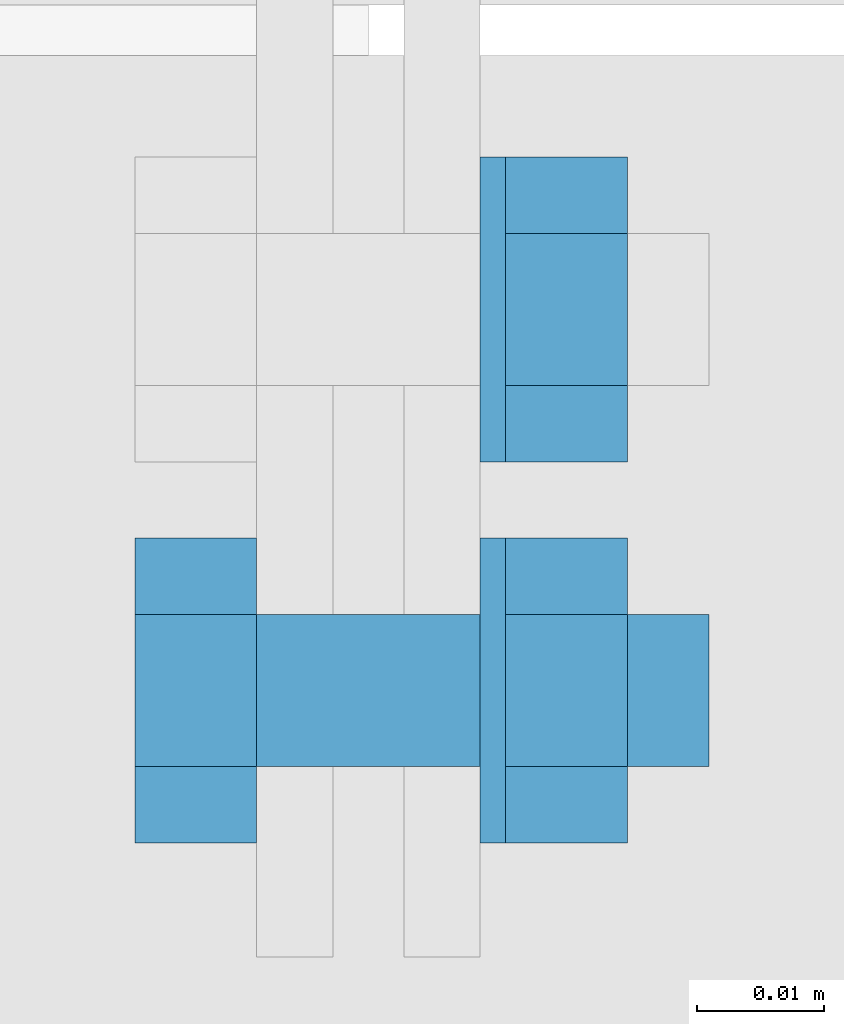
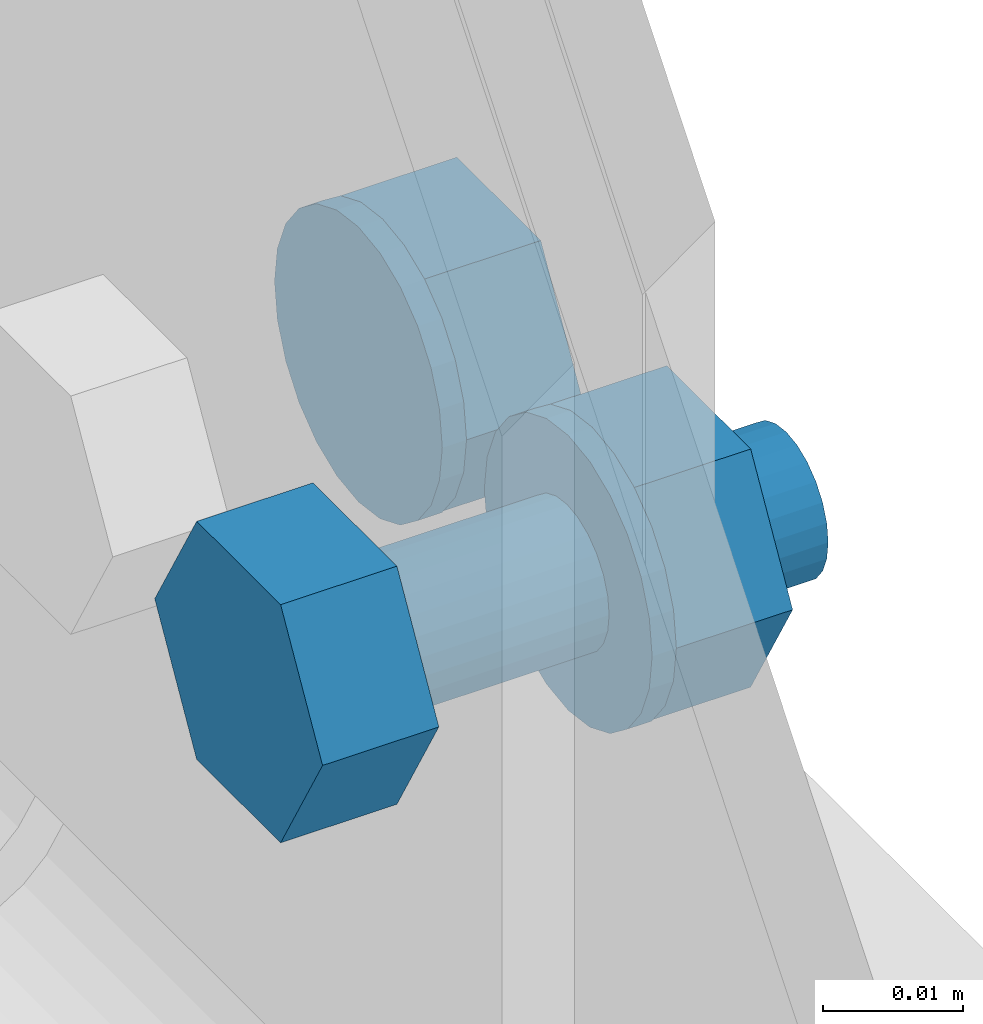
# One storey, part 80 of 84: 6 mechanical fasteners.
"""IFC4 building model written with IfcOpenShell, lengths in metres."""

from ifc_helpers import new_model, si_unit, frame, origin_with_axes, place, context, project, spatial, polyline, outline, extrude, type_object, element, save


model = new_model("IFC4")

# Units and contexts
model_context = context("Model", 3, precision=1e-05, world=origin_with_axes())
ifc_project = project(units=[si_unit("LENGTHUNIT", "METRE"), si_unit("AREAUNIT", "SQUARE_METRE"), si_unit("VOLUMEUNIT", "CUBIC_METRE"), si_unit("MASSUNIT", "GRAM", prefix="KILO"), si_unit("TIMEUNIT", "SECOND"), si_unit("PLANEANGLEUNIT", "RADIAN"), si_unit("SOLIDANGLEUNIT", "STERADIAN"), si_unit("THERMODYNAMICTEMPERATUREUNIT", "DEGREE_CELSIUS")], contexts=[model_context])

# Site, building, storey
placement_1 = place(None, origin_with_axes())
site = spatial("IfcSite", under=ifc_project, at=placement_1, Name="Italia", CompositionType="ELEMENT")
building = spatial("IfcBuilding", under=site, at=placement_1, Name="Tettoia", CompositionType="ELEMENT")
storey_placement = place(None, frame((0.0, 0.0, 4.199999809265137), z_axis=(0.0, 0.0, 1.0), x_axis=(1.0, 0.0, 0.0)))
storey = spatial("IfcBuildingStorey", under=building, at=storey_placement, Name="Storey 1", CompositionType="ELEMENT", Elevation=4.199999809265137)

# Mechanical fasteners
mechanical_fastener_type_1 = type_object("IfcMechanicalFastenerType", Name="Collegamento 0123_0115", PredefinedType="BOLT")
placement_2 = place(placement_1, origin_with_axes())
mechanical_fastener_1_placement = place(placement_2, origin_with_axes())
element("IfcMechanicalFastener", 1, at=mechanical_fastener_1_placement, inside=storey, type_object=mechanical_fastener_type_1, Name="Collegamento 0123_0115", NominalDiameter=0.0119991, context=model_context, shape_type="SweptSolid", body=[
    extrude(outline(polyline([(0.0, 0.0), (0.0119991, 0.0), (0.0179996, -0.0103927), (0.0119991, -0.0207849), (0.0, -0.0207849), (-0.00600052, -0.0103927), (0.0, 0.0)])), frame((4.0904, 16.871, 4.27339), z_axis=(-1.0, 0.0, 0.0), x_axis=(0.0, -1.0, 0.0)), (0.0, 0.0, 1.0), 0.00960016),
])
mechanical_fastener_type_2 = type_object("IfcMechanicalFastenerType", Name="Collegamento 0123_0115", PredefinedType="BOLT")
mechanical_fastener_2_placement = place(placement_2, origin_with_axes())
element("IfcMechanicalFastener", 2, at=mechanical_fastener_2_placement, inside=storey, type_object=mechanical_fastener_type_2, Name="Collegamento 0123_0115", NominalDiameter=0.024, context=model_context, shape_type="SweptSolid", body=[
    extrude(outline(polyline([(0.0, 0.0), (-0.000408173, -0.00310564), (-0.00160599, -0.00600004), (-0.00351334, -0.00848532), (-0.00599861, -0.0103922), (-0.00889397, -0.011591), (-0.0119991, -0.0120001), (-0.0151043, -0.011591), (-0.0179996, -0.0103922), (-0.0204849, -0.00848532), (-0.0223923, -0.00600004), (-0.0235901, -0.00310564), (-0.0239983, 0.0), (-0.0235901, 0.00310564), (-0.0223923, 0.00600004), (-0.0204849, 0.00848532), (-0.0179996, 0.0103922), (-0.0151043, 0.011591), (-0.0119991, 0.0120001), (-0.00889397, 0.011591), (-0.00599861, 0.0103922), (-0.00351334, 0.00848532), (-0.00160599, 0.00600004), (-0.000408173, 0.00310564), (0.0, 0.0)])), frame((4.0808, 16.853, 4.263), z_axis=(-1.0, 0.0, 0.0), x_axis=(0.0, -1.0, 0.0)), (0.0, 0.0, 1.0), 0.00199986),
])
mechanical_fastener_type_3 = type_object("IfcMechanicalFastenerType", Name="Collegamento 0123_0115", PredefinedType="BOLT")
mechanical_fastener_3_placement = place(placement_2, origin_with_axes())
element("IfcMechanicalFastener", 3, at=mechanical_fastener_3_placement, inside=storey, type_object=mechanical_fastener_type_3, Name="Collegamento 0123_0115", NominalDiameter=0.0119991, context=model_context, shape_type="SweptSolid", body=[
    extrude(outline(polyline([(0.0, 0.0), (0.0119991, 0.0), (0.0179996, -0.0103927), (0.0119991, -0.0207849), (0.0, -0.0207849), (-0.00600052, -0.0103927), (0.0, 0.0)])), frame((4.0612, 16.841, 4.27339), z_axis=(-1.0, 0.0, 0.0), x_axis=(0.0, -1.0, 0.0)), (0.0, 0.0, 1.0), 0.00960016),
])
mechanical_fastener_type_4 = type_object("IfcMechanicalFastenerType", Name="Collegamento 0123_0115", PredefinedType="BOLT")
mechanical_fastener_4_placement = place(placement_2, origin_with_axes())
element("IfcMechanicalFastener", 4, at=mechanical_fastener_4_placement, inside=storey, type_object=mechanical_fastener_type_4, Name="Collegamento 0123_0115", NominalDiameter=0.012, context=model_context, shape_type="SweptSolid", body=[
    extrude(outline(polyline([(0.0, 0.0), (-0.000204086, -0.00155306), (-0.000804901, -0.00299978), (-0.00175858, -0.00424242), (-0.00300026, -0.00519609), (-0.00444794, -0.00579548), (-0.00600052, -0.00600004), (-0.0075531, -0.00579548), (-0.00900078, -0.00519609), (-0.0102425, -0.00424242), (-0.0111961, -0.00299978), (-0.011797, -0.00155306), (-0.012001, 0.0), (-0.011797, 0.00155306), (-0.0111961, 0.00299978), (-0.0102425, 0.00424242), (-0.00900078, 0.00519609), (-0.0075531, 0.00579548), (-0.00600052, 0.00600004), (-0.00444794, 0.00579548), (-0.00300026, 0.00519609), (-0.00175858, 0.00424242), (-0.000804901, 0.00299978), (-0.000204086, 0.00155306), (0.0, 0.0)])), frame((4.0968, 16.829, 4.263), z_axis=(-1.0, 0.0, 0.0), x_axis=(0.0, -1.0, 0.0)), (0.0, 0.0, 1.0), 0.0356002),
])
mechanical_fastener_type_5 = type_object("IfcMechanicalFastenerType", Name="Collegamento 0123_0115", PredefinedType="BOLT")
mechanical_fastener_5_placement = place(placement_2, origin_with_axes())
element("IfcMechanicalFastener", 5, at=mechanical_fastener_5_placement, inside=storey, type_object=mechanical_fastener_type_5, Name="Collegamento 0123_0115", NominalDiameter=0.0119991, context=model_context, shape_type="SweptSolid", body=[
    extrude(outline(polyline([(0.0, 0.0), (0.0119991, 0.0), (0.0179996, -0.0103927), (0.0119991, -0.0207849), (0.0, -0.0207849), (-0.00600052, -0.0103927), (0.0, 0.0)])), frame((4.0904, 16.841, 4.27339), z_axis=(-1.0, 0.0, 0.0), x_axis=(0.0, -1.0, 0.0)), (0.0, 0.0, 1.0), 0.00960016),
])
mechanical_fastener_type_6 = type_object("IfcMechanicalFastenerType", Name="Collegamento 0123_0115", PredefinedType="BOLT")
mechanical_fastener_6_placement = place(placement_2, origin_with_axes())
element("IfcMechanicalFastener", 6, at=mechanical_fastener_6_placement, inside=storey, type_object=mechanical_fastener_type_6, Name="Collegamento 0123_0115", NominalDiameter=0.024, context=model_context, shape_type="SweptSolid", body=[
    extrude(outline(polyline([(0.0, 0.0), (-0.000408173, -0.00310564), (-0.00160599, -0.00600004), (-0.00351334, -0.00848532), (-0.00599861, -0.0103922), (-0.00889397, -0.011591), (-0.0119991, -0.0120001), (-0.0151043, -0.011591), (-0.0179996, -0.0103922), (-0.0204849, -0.00848532), (-0.0223923, -0.00600004), (-0.0235901, -0.00310564), (-0.0239983, 0.0), (-0.0235901, 0.00310564), (-0.0223923, 0.00600004), (-0.0204849, 0.00848532), (-0.0179996, 0.0103922), (-0.0151043, 0.011591), (-0.0119991, 0.0120001), (-0.00889397, 0.011591), (-0.00599861, 0.0103922), (-0.00351334, 0.00848532), (-0.00160599, 0.00600004), (-0.000408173, 0.00310564), (0.0, 0.0)])), frame((4.0808, 16.823, 4.263), z_axis=(-1.0, 0.0, 0.0), x_axis=(0.0, -1.0, 0.0)), (0.0, 0.0, 1.0), 0.00199986),
])

save(model, "model.ifc")
